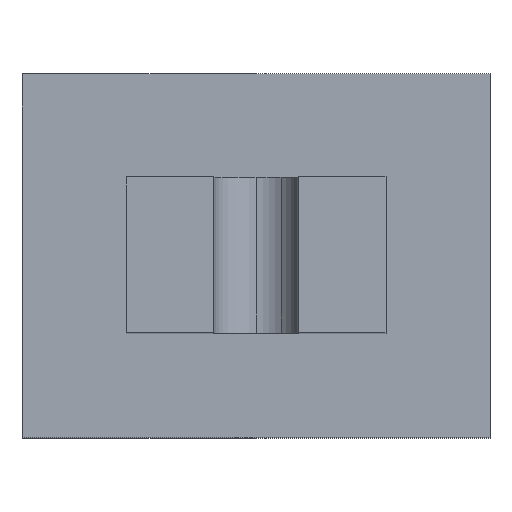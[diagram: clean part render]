
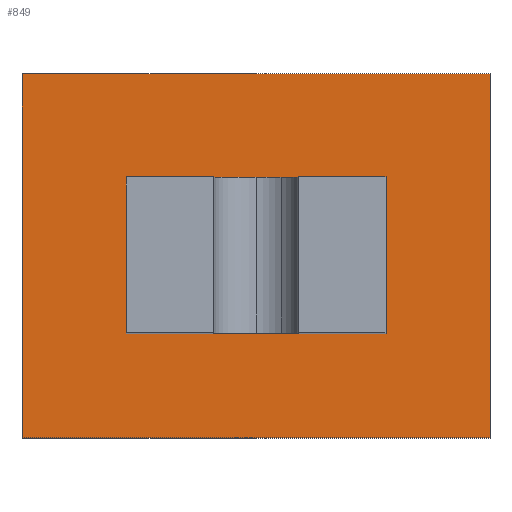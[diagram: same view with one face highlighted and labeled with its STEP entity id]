
A CAD part, top view. The second image highlights one B-rep face of the part: STEP entity #849.
In plain terms, the highlighted planar face has unit normal (0, 0, 1).
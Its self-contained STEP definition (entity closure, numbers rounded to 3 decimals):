
#24 = VERTEX_POINT('',#25);
#25 = CARTESIAN_POINT('',(2.,5.,2.));
#32 = PLANE('',#33);
#33 = AXIS2_PLACEMENT_3D('',#34,#35,#36);
#34 = CARTESIAN_POINT('',(2.,5.,12.55));
#35 = DIRECTION('',(1.,0.,0.));
#36 = DIRECTION('',(0.,0.,-1.));
#44 = PLANE('',#45);
#45 = AXIS2_PLACEMENT_3D('',#46,#47,#48);
#46 = CARTESIAN_POINT('',(2.,5.,12.55));
#47 = DIRECTION('',(0.,-1.,0.));
#48 = DIRECTION('',(0.,0.,-1.));
#85 = VERTEX_POINT('',#86);
#86 = CARTESIAN_POINT('',(2.,2.,2.));
#100 = PLANE('',#101);
#101 = AXIS2_PLACEMENT_3D('',#102,#103,#104);
#102 = CARTESIAN_POINT('',(2.,2.,12.55));
#103 = DIRECTION('',(0.,-1.,0.));
#104 = DIRECTION('',(0.,0.,-1.));
#112 = EDGE_CURVE('',#24,#85,#113,.T.);
#113 = SURFACE_CURVE('',#114,(#118,#125),.PCURVE_S1.);
#114 = LINE('',#115,#116);
#115 = CARTESIAN_POINT('',(2.,5.,2.));
#116 = VECTOR('',#117,1.);
#117 = DIRECTION('',(0.,-1.,0.));
#118 = PCURVE('',#32,#119);
#119 = DEFINITIONAL_REPRESENTATION('',(#120),#124);
#120 = LINE('',#121,#122);
#121 = CARTESIAN_POINT('',(10.55,0.));
#122 = VECTOR('',#123,1.);
#123 = DIRECTION('',(0.,-1.));
#124 = ( GEOMETRIC_REPRESENTATION_CONTEXT(2) 
PARAMETRIC_REPRESENTATION_CONTEXT() REPRESENTATION_CONTEXT('2D SPACE',''
  ) );
#125 = PCURVE('',#126,#131);
#126 = PLANE('',#127);
#127 = AXIS2_PLACEMENT_3D('',#128,#129,#130);
#128 = CARTESIAN_POINT('',(0.,7.,2.));
#129 = DIRECTION('',(0.,0.,-1.));
#130 = DIRECTION('',(1.,0.,0.));
#131 = DEFINITIONAL_REPRESENTATION('',(#132),#136);
#132 = LINE('',#133,#134);
#133 = CARTESIAN_POINT('',(2.,2.));
#134 = VECTOR('',#135,1.);
#135 = DIRECTION('',(0.,1.));
#136 = ( GEOMETRIC_REPRESENTATION_CONTEXT(2) 
PARAMETRIC_REPRESENTATION_CONTEXT() REPRESENTATION_CONTEXT('2D SPACE',''
  ) );
#165 = EDGE_CURVE('',#24,#166,#168,.T.);
#166 = VERTEX_POINT('',#167);
#167 = CARTESIAN_POINT('',(7.,5.,2.));
#168 = SURFACE_CURVE('',#169,(#173,#180),.PCURVE_S1.);
#169 = LINE('',#170,#171);
#170 = CARTESIAN_POINT('',(2.,5.,2.));
#171 = VECTOR('',#172,1.);
#172 = DIRECTION('',(1.,0.,0.));
#173 = PCURVE('',#44,#174);
#174 = DEFINITIONAL_REPRESENTATION('',(#175),#179);
#175 = LINE('',#176,#177);
#176 = CARTESIAN_POINT('',(10.55,0.));
#177 = VECTOR('',#178,1.);
#178 = DIRECTION('',(0.,1.));
#179 = ( GEOMETRIC_REPRESENTATION_CONTEXT(2) 
PARAMETRIC_REPRESENTATION_CONTEXT() REPRESENTATION_CONTEXT('2D SPACE',''
  ) );
#180 = PCURVE('',#126,#181);
#181 = DEFINITIONAL_REPRESENTATION('',(#182),#186);
#182 = LINE('',#183,#184);
#183 = CARTESIAN_POINT('',(2.,2.));
#184 = VECTOR('',#185,1.);
#185 = DIRECTION('',(1.,0.));
#186 = ( GEOMETRIC_REPRESENTATION_CONTEXT(2) 
PARAMETRIC_REPRESENTATION_CONTEXT() REPRESENTATION_CONTEXT('2D SPACE',''
  ) );
#204 = PLANE('',#205);
#205 = AXIS2_PLACEMENT_3D('',#206,#207,#208);
#206 = CARTESIAN_POINT('',(7.,5.,12.55));
#207 = DIRECTION('',(1.,0.,0.));
#208 = DIRECTION('',(0.,0.,-1.));
#592 = EDGE_CURVE('',#85,#593,#595,.T.);
#593 = VERTEX_POINT('',#594);
#594 = CARTESIAN_POINT('',(7.,2.,2.));
#595 = SURFACE_CURVE('',#596,(#600,#607),.PCURVE_S1.);
#596 = LINE('',#597,#598);
#597 = CARTESIAN_POINT('',(2.,2.,2.));
#598 = VECTOR('',#599,1.);
#599 = DIRECTION('',(1.,0.,0.));
#600 = PCURVE('',#100,#601);
#601 = DEFINITIONAL_REPRESENTATION('',(#602),#606);
#602 = LINE('',#603,#604);
#603 = CARTESIAN_POINT('',(10.55,0.));
#604 = VECTOR('',#605,1.);
#605 = DIRECTION('',(0.,1.));
#606 = ( GEOMETRIC_REPRESENTATION_CONTEXT(2) 
PARAMETRIC_REPRESENTATION_CONTEXT() REPRESENTATION_CONTEXT('2D SPACE',''
  ) );
#607 = PCURVE('',#126,#608);
#608 = DEFINITIONAL_REPRESENTATION('',(#609),#613);
#609 = LINE('',#610,#611);
#610 = CARTESIAN_POINT('',(2.,5.));
#611 = VECTOR('',#612,1.);
#612 = DIRECTION('',(1.,0.));
#613 = ( GEOMETRIC_REPRESENTATION_CONTEXT(2) 
PARAMETRIC_REPRESENTATION_CONTEXT() REPRESENTATION_CONTEXT('2D SPACE',''
  ) );
#849 = ADVANCED_FACE('',(#850,#964),#126,.F.);
#850 = FACE_BOUND('',#851,.F.);
#851 = EDGE_LOOP('',(#852,#882,#910,#938));
#852 = ORIENTED_EDGE('',*,*,#853,.F.);
#853 = EDGE_CURVE('',#854,#856,#858,.T.);
#854 = VERTEX_POINT('',#855);
#855 = CARTESIAN_POINT('',(0.,7.,2.));
#856 = VERTEX_POINT('',#857);
#857 = CARTESIAN_POINT('',(0.,0.,2.));
#858 = SURFACE_CURVE('',#859,(#863,#870),.PCURVE_S1.);
#859 = LINE('',#860,#861);
#860 = CARTESIAN_POINT('',(0.,7.,2.));
#861 = VECTOR('',#862,1.);
#862 = DIRECTION('',(0.,-1.,0.));
#863 = PCURVE('',#126,#864);
#864 = DEFINITIONAL_REPRESENTATION('',(#865),#869);
#865 = LINE('',#866,#867);
#866 = CARTESIAN_POINT('',(0.,0.));
#867 = VECTOR('',#868,1.);
#868 = DIRECTION('',(0.,1.));
#869 = ( GEOMETRIC_REPRESENTATION_CONTEXT(2) 
PARAMETRIC_REPRESENTATION_CONTEXT() REPRESENTATION_CONTEXT('2D SPACE',''
  ) );
#870 = PCURVE('',#871,#876);
#871 = PLANE('',#872);
#872 = AXIS2_PLACEMENT_3D('',#873,#874,#875);
#873 = CARTESIAN_POINT('',(0.,7.,2.));
#874 = DIRECTION('',(1.,0.,0.));
#875 = DIRECTION('',(0.,0.,-1.));
#876 = DEFINITIONAL_REPRESENTATION('',(#877),#881);
#877 = LINE('',#878,#879);
#878 = CARTESIAN_POINT('',(0.,0.));
#879 = VECTOR('',#880,1.);
#880 = DIRECTION('',(0.,-1.));
#881 = ( GEOMETRIC_REPRESENTATION_CONTEXT(2) 
PARAMETRIC_REPRESENTATION_CONTEXT() REPRESENTATION_CONTEXT('2D SPACE',''
  ) );
#882 = ORIENTED_EDGE('',*,*,#883,.T.);
#883 = EDGE_CURVE('',#854,#884,#886,.T.);
#884 = VERTEX_POINT('',#885);
#885 = CARTESIAN_POINT('',(9.,7.,2.));
#886 = SURFACE_CURVE('',#887,(#891,#898),.PCURVE_S1.);
#887 = LINE('',#888,#889);
#888 = CARTESIAN_POINT('',(0.,7.,2.));
#889 = VECTOR('',#890,1.);
#890 = DIRECTION('',(1.,0.,0.));
#891 = PCURVE('',#126,#892);
#892 = DEFINITIONAL_REPRESENTATION('',(#893),#897);
#893 = LINE('',#894,#895);
#894 = CARTESIAN_POINT('',(0.,0.));
#895 = VECTOR('',#896,1.);
#896 = DIRECTION('',(1.,0.));
#897 = ( GEOMETRIC_REPRESENTATION_CONTEXT(2) 
PARAMETRIC_REPRESENTATION_CONTEXT() REPRESENTATION_CONTEXT('2D SPACE',''
  ) );
#898 = PCURVE('',#899,#904);
#899 = PLANE('',#900);
#900 = AXIS2_PLACEMENT_3D('',#901,#902,#903);
#901 = CARTESIAN_POINT('',(0.,7.,2.));
#902 = DIRECTION('',(0.,-1.,0.));
#903 = DIRECTION('',(0.,0.,-1.));
#904 = DEFINITIONAL_REPRESENTATION('',(#905),#909);
#905 = LINE('',#906,#907);
#906 = CARTESIAN_POINT('',(0.,0.));
#907 = VECTOR('',#908,1.);
#908 = DIRECTION('',(0.,1.));
#909 = ( GEOMETRIC_REPRESENTATION_CONTEXT(2) 
PARAMETRIC_REPRESENTATION_CONTEXT() REPRESENTATION_CONTEXT('2D SPACE',''
  ) );
#910 = ORIENTED_EDGE('',*,*,#911,.T.);
#911 = EDGE_CURVE('',#884,#912,#914,.T.);
#912 = VERTEX_POINT('',#913);
#913 = CARTESIAN_POINT('',(9.,0.,2.));
#914 = SURFACE_CURVE('',#915,(#919,#926),.PCURVE_S1.);
#915 = LINE('',#916,#917);
#916 = CARTESIAN_POINT('',(9.,7.,2.));
#917 = VECTOR('',#918,1.);
#918 = DIRECTION('',(0.,-1.,0.));
#919 = PCURVE('',#126,#920);
#920 = DEFINITIONAL_REPRESENTATION('',(#921),#925);
#921 = LINE('',#922,#923);
#922 = CARTESIAN_POINT('',(9.,0.));
#923 = VECTOR('',#924,1.);
#924 = DIRECTION('',(0.,1.));
#925 = ( GEOMETRIC_REPRESENTATION_CONTEXT(2) 
PARAMETRIC_REPRESENTATION_CONTEXT() REPRESENTATION_CONTEXT('2D SPACE',''
  ) );
#926 = PCURVE('',#927,#932);
#927 = PLANE('',#928);
#928 = AXIS2_PLACEMENT_3D('',#929,#930,#931);
#929 = CARTESIAN_POINT('',(9.,7.,2.));
#930 = DIRECTION('',(1.,0.,0.));
#931 = DIRECTION('',(0.,0.,-1.));
#932 = DEFINITIONAL_REPRESENTATION('',(#933),#937);
#933 = LINE('',#934,#935);
#934 = CARTESIAN_POINT('',(0.,0.));
#935 = VECTOR('',#936,1.);
#936 = DIRECTION('',(0.,-1.));
#937 = ( GEOMETRIC_REPRESENTATION_CONTEXT(2) 
PARAMETRIC_REPRESENTATION_CONTEXT() REPRESENTATION_CONTEXT('2D SPACE',''
  ) );
#938 = ORIENTED_EDGE('',*,*,#939,.F.);
#939 = EDGE_CURVE('',#856,#912,#940,.T.);
#940 = SURFACE_CURVE('',#941,(#945,#952),.PCURVE_S1.);
#941 = LINE('',#942,#943);
#942 = CARTESIAN_POINT('',(0.,0.,2.));
#943 = VECTOR('',#944,1.);
#944 = DIRECTION('',(1.,0.,0.));
#945 = PCURVE('',#126,#946);
#946 = DEFINITIONAL_REPRESENTATION('',(#947),#951);
#947 = LINE('',#948,#949);
#948 = CARTESIAN_POINT('',(0.,7.));
#949 = VECTOR('',#950,1.);
#950 = DIRECTION('',(1.,0.));
#951 = ( GEOMETRIC_REPRESENTATION_CONTEXT(2) 
PARAMETRIC_REPRESENTATION_CONTEXT() REPRESENTATION_CONTEXT('2D SPACE',''
  ) );
#952 = PCURVE('',#953,#958);
#953 = PLANE('',#954);
#954 = AXIS2_PLACEMENT_3D('',#955,#956,#957);
#955 = CARTESIAN_POINT('',(0.,0.,2.));
#956 = DIRECTION('',(0.,-1.,0.));
#957 = DIRECTION('',(0.,0.,-1.));
#958 = DEFINITIONAL_REPRESENTATION('',(#959),#963);
#959 = LINE('',#960,#961);
#960 = CARTESIAN_POINT('',(0.,0.));
#961 = VECTOR('',#962,1.);
#962 = DIRECTION('',(0.,1.));
#963 = ( GEOMETRIC_REPRESENTATION_CONTEXT(2) 
PARAMETRIC_REPRESENTATION_CONTEXT() REPRESENTATION_CONTEXT('2D SPACE',''
  ) );
#964 = FACE_BOUND('',#965,.F.);
#965 = EDGE_LOOP('',(#966,#967,#968,#969));
#966 = ORIENTED_EDGE('',*,*,#165,.F.);
#967 = ORIENTED_EDGE('',*,*,#112,.T.);
#968 = ORIENTED_EDGE('',*,*,#592,.T.);
#969 = ORIENTED_EDGE('',*,*,#970,.F.);
#970 = EDGE_CURVE('',#166,#593,#971,.T.);
#971 = SURFACE_CURVE('',#972,(#976,#983),.PCURVE_S1.);
#972 = LINE('',#973,#974);
#973 = CARTESIAN_POINT('',(7.,5.,2.));
#974 = VECTOR('',#975,1.);
#975 = DIRECTION('',(0.,-1.,0.));
#976 = PCURVE('',#126,#977);
#977 = DEFINITIONAL_REPRESENTATION('',(#978),#982);
#978 = LINE('',#979,#980);
#979 = CARTESIAN_POINT('',(7.,2.));
#980 = VECTOR('',#981,1.);
#981 = DIRECTION('',(0.,1.));
#982 = ( GEOMETRIC_REPRESENTATION_CONTEXT(2) 
PARAMETRIC_REPRESENTATION_CONTEXT() REPRESENTATION_CONTEXT('2D SPACE',''
  ) );
#983 = PCURVE('',#204,#984);
#984 = DEFINITIONAL_REPRESENTATION('',(#985),#989);
#985 = LINE('',#986,#987);
#986 = CARTESIAN_POINT('',(10.55,0.));
#987 = VECTOR('',#988,1.);
#988 = DIRECTION('',(0.,-1.));
#989 = ( GEOMETRIC_REPRESENTATION_CONTEXT(2) 
PARAMETRIC_REPRESENTATION_CONTEXT() REPRESENTATION_CONTEXT('2D SPACE',''
  ) );
